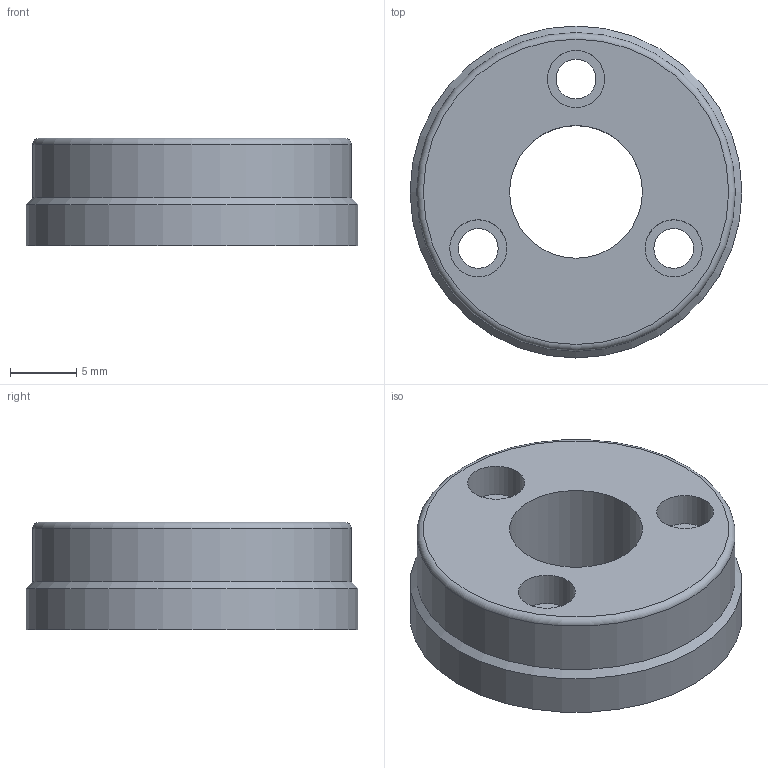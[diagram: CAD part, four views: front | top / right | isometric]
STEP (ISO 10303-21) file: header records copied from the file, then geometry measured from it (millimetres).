
FILE_DESCRIPTION(/* description */ (''),/* implementation_level */ '2;1');
FILE_NAME(/* name */ '26-1_flange_a.stp',/* time_stamp */ '2016-09-27T11:19:42+02:00',/* author */ ('DR. FRITZ FAULHABER GmbH & Co. KG'),/* organization */ ('DR. FRITZ FAULHABER GmbH & Co. KG'),/* preprocessor_version */ 'ST-DEVELOPER v16',/* originating_system */ 'SIEMENS PLM Software NX 10.0',/* authorisation */ '');
FILE_SCHEMA (('AUTOMOTIVE_DESIGN { 1 0 10303 214 3 1 1 1 }'));
Length unit declared in the file: millimetre
Products named in the file (1): F0201526010_A
Bounding box: 25 x 25 x 8.1 mm (x, y, z)
Volume: 2923.1 mm3; surface area: 1880 mm2
Topology: 1 solids, 1 shells, 16 faces, 31 edges, 20 vertices
Faces by surface type: cylinder 9, plane 5, cone 1, torus 1
Full cylindrical faces by diameter (mm): 3 x3, 4.3 x3, 10 x1, 24 x1, 25 x1
Entity records: 394 total; most frequent: DIRECTION 72, CARTESIAN_POINT 55, FACE_BOUND 38, EDGE_LOOP 38, ORIENTED_EDGE 38, AXIS2_PLACEMENT_3D 36, VERTEX_POINT 19, EDGE_CURVE 19
